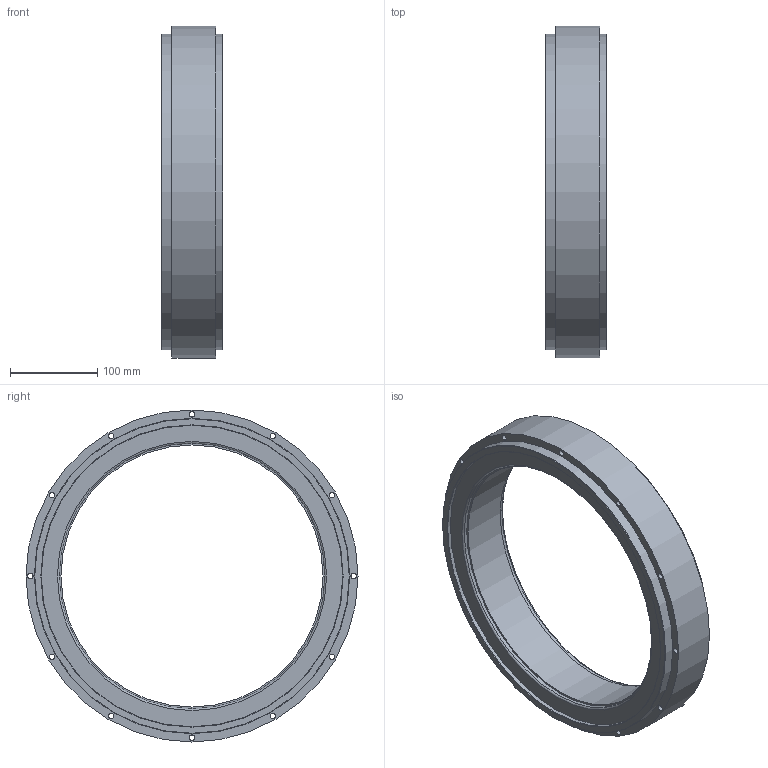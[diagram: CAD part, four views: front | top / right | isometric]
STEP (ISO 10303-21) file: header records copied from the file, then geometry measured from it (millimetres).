
FILE_DESCRIPTION(('STEP AP214'), '1');
FILE_NAME('抸迍.684222.023-21 栺僗闉 380x50', '', ('UNSPECIFIED'), ('UNSPECIFIED'), 'C3D Converter', 'C3D Toolkit', '');
FILE_SCHEMA(('AUTOMOTIVE_DESIGN { 1 0 10303 214 3 1 1}'));
Length unit declared in the file: millimetre
Products named in the file (1): МАНП.684222.023-21
Bounding box: 70 x 380 x 380 mm (x, y, z)
Volume: 2609848 mm3; surface area: 243603.8 mm2
Topology: 1 solids, 1 shells, 33 faces, 70 edges, 45 vertices
Faces by surface type: cylinder 20, plane 8, torus 5
Full cylindrical faces by diameter (mm): 6.4 x12, 300 x1, 304 x2, 345 x2, 361 x2, 380 x1
Entity records: 1140 total; most frequent: DIRECTION 158, CARTESIAN_POINT 124, EDGE_LOOP 90, ORIENTED_EDGE 90, AXIS2_PLACEMENT_3D 79, FACE_OUTER_BOUND 50, EDGE_CURVE 45, VERTEX_POINT 45
